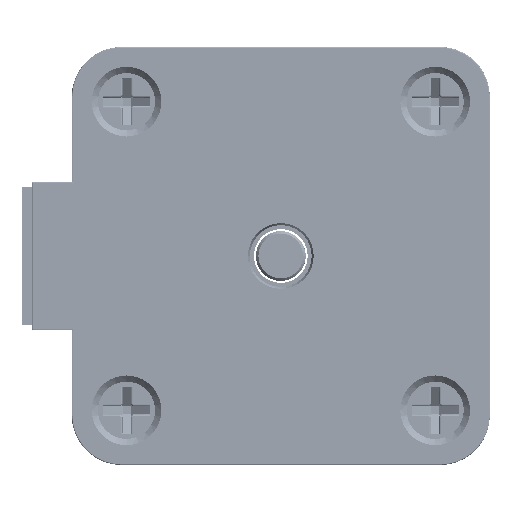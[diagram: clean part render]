
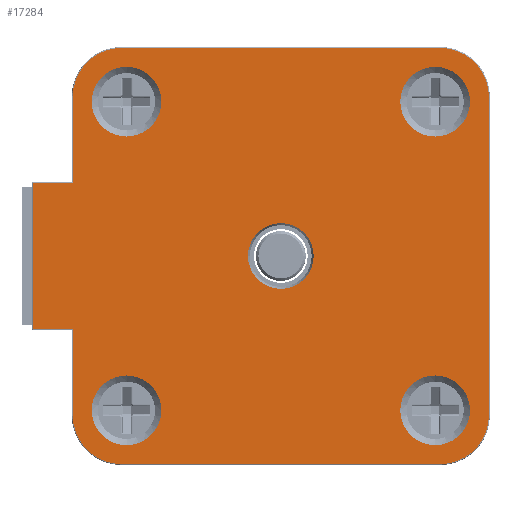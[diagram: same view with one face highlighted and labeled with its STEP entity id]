
A CAD part, front view. The second image highlights one B-rep face of the part: STEP entity #17284.
In plain terms, the highlighted planar face has unit normal (0, -1, 0).
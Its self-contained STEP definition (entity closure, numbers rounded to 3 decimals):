
#252=FACE_BOUND('',#2457,.T.);
#253=FACE_BOUND('',#2458,.T.);
#254=FACE_BOUND('',#2459,.T.);
#255=FACE_BOUND('',#2460,.T.);
#256=FACE_BOUND('',#2461,.T.);
#574=PLANE('',#18778);
#1437=FACE_OUTER_BOUND('',#2456,.T.);
#2456=EDGE_LOOP('',(#14649,#14650,#14651,#14652,#14653,#14654,#14655,#14656,
#14657,#14658,#14659,#14660));
#2457=EDGE_LOOP('',(#14661));
#2458=EDGE_LOOP('',(#14662));
#2459=EDGE_LOOP('',(#14663));
#2460=EDGE_LOOP('',(#14664));
#2461=EDGE_LOOP('',(#14665));
#3018=CIRCLE('',#18779,4.9);
#3019=CIRCLE('',#18780,4.9);
#3020=CIRCLE('',#18781,4.9);
#3021=CIRCLE('',#18782,4.9);
#3022=CIRCLE('',#18783,3.3);
#3023=CIRCLE('',#18784,3.5);
#3024=CIRCLE('',#18785,3.5);
#3025=CIRCLE('',#18786,3.5);
#3026=CIRCLE('',#18787,3.5);
#4837=LINE('',#52513,#6067);
#4843=LINE('',#52528,#6073);
#4844=LINE('',#52551,#6074);
#4845=LINE('',#52555,#6075);
#4846=LINE('',#52559,#6076);
#4847=LINE('',#52563,#6077);
#4848=LINE('',#52566,#6078);
#4849=LINE('',#52567,#6079);
#6067=VECTOR('',#22096,10.);
#6073=VECTOR('',#22108,10.);
#6074=VECTOR('',#22113,10.);
#6075=VECTOR('',#22116,10.);
#6076=VECTOR('',#22119,10.);
#6077=VECTOR('',#22122,10.);
#6078=VECTOR('',#22125,10.);
#6079=VECTOR('',#22126,10.);
#7771=VERTEX_POINT('',#52498);
#7772=VERTEX_POINT('',#52502);
#7777=VERTEX_POINT('',#52525);
#7778=VERTEX_POINT('',#52527);
#7779=VERTEX_POINT('',#52550);
#7780=VERTEX_POINT('',#52552);
#7781=VERTEX_POINT('',#52554);
#7782=VERTEX_POINT('',#52556);
#7783=VERTEX_POINT('',#52558);
#7784=VERTEX_POINT('',#52560);
#7785=VERTEX_POINT('',#52562);
#7786=VERTEX_POINT('',#52564);
#7787=VERTEX_POINT('',#52568);
#7788=VERTEX_POINT('',#52570);
#7789=VERTEX_POINT('',#52572);
#7790=VERTEX_POINT('',#52574);
#7791=VERTEX_POINT('',#52576);
#10107=EDGE_CURVE('',#7772,#7771,#4837,.T.);
#10114=EDGE_CURVE('',#7777,#7778,#4843,.T.);
#10117=EDGE_CURVE('',#7779,#7772,#4844,.T.);
#10118=EDGE_CURVE('',#7780,#7779,#3018,.T.);
#10119=EDGE_CURVE('',#7781,#7780,#4845,.T.);
#10120=EDGE_CURVE('',#7782,#7781,#3019,.T.);
#10121=EDGE_CURVE('',#7783,#7782,#4846,.T.);
#10122=EDGE_CURVE('',#7784,#7783,#3020,.T.);
#10123=EDGE_CURVE('',#7785,#7784,#4847,.T.);
#10124=EDGE_CURVE('',#7786,#7785,#3021,.T.);
#10125=EDGE_CURVE('',#7778,#7786,#4848,.T.);
#10126=EDGE_CURVE('',#7771,#7777,#4849,.T.);
#10127=EDGE_CURVE('',#7787,#7787,#3022,.T.);
#10128=EDGE_CURVE('',#7788,#7788,#3023,.T.);
#10129=EDGE_CURVE('',#7789,#7789,#3024,.T.);
#10130=EDGE_CURVE('',#7790,#7790,#3025,.T.);
#10131=EDGE_CURVE('',#7791,#7791,#3026,.T.);
#14649=ORIENTED_EDGE('',*,*,#10117,.F.);
#14650=ORIENTED_EDGE('',*,*,#10118,.F.);
#14651=ORIENTED_EDGE('',*,*,#10119,.F.);
#14652=ORIENTED_EDGE('',*,*,#10120,.F.);
#14653=ORIENTED_EDGE('',*,*,#10121,.F.);
#14654=ORIENTED_EDGE('',*,*,#10122,.F.);
#14655=ORIENTED_EDGE('',*,*,#10123,.F.);
#14656=ORIENTED_EDGE('',*,*,#10124,.F.);
#14657=ORIENTED_EDGE('',*,*,#10125,.F.);
#14658=ORIENTED_EDGE('',*,*,#10114,.F.);
#14659=ORIENTED_EDGE('',*,*,#10126,.F.);
#14660=ORIENTED_EDGE('',*,*,#10107,.F.);
#14661=ORIENTED_EDGE('',*,*,#10127,.T.);
#14662=ORIENTED_EDGE('',*,*,#10128,.F.);
#14663=ORIENTED_EDGE('',*,*,#10129,.F.);
#14664=ORIENTED_EDGE('',*,*,#10130,.F.);
#14665=ORIENTED_EDGE('',*,*,#10131,.F.);
#17284=ADVANCED_FACE('',(#1437,#252,#253,#254,#255,#256),#574,.F.);
#18778=AXIS2_PLACEMENT_3D('',#52549,#22111,#22112);
#18779=AXIS2_PLACEMENT_3D('',#52553,#22114,#22115);
#18780=AXIS2_PLACEMENT_3D('',#52557,#22117,#22118);
#18781=AXIS2_PLACEMENT_3D('',#52561,#22120,#22121);
#18782=AXIS2_PLACEMENT_3D('',#52565,#22123,#22124);
#18783=AXIS2_PLACEMENT_3D('',#52569,#22127,#22128);
#18784=AXIS2_PLACEMENT_3D('',#52571,#22129,#22130);
#18785=AXIS2_PLACEMENT_3D('',#52573,#22131,#22132);
#18786=AXIS2_PLACEMENT_3D('',#52575,#22133,#22134);
#18787=AXIS2_PLACEMENT_3D('',#52577,#22135,#22136);
#22096=DIRECTION('',(-1.,0.,0.));
#22108=DIRECTION('',(1.,0.,0.));
#22111=DIRECTION('center_axis',(0.,1.,0.));
#22112=DIRECTION('ref_axis',(0.,0.,
1.));
#22113=DIRECTION('',(0.,0.,1.));
#22114=DIRECTION('center_axis',(0.,1.,0.));
#22115=DIRECTION('ref_axis',(-0.707,0.,-0.707));
#22116=DIRECTION('',(-1.,0.,0.));
#22117=DIRECTION('center_axis',(0.,1.,0.));
#22118=DIRECTION('ref_axis',(0.707,0.,-0.707));
#22119=DIRECTION('',(0.,0.,-1.));
#22120=DIRECTION('center_axis',(0.,1.,0.));
#22121=DIRECTION('ref_axis',(0.707,0.,0.707));
#22122=DIRECTION('',(1.,0.,0.));
#22123=DIRECTION('center_axis',(0.,1.,0.));
#22124=DIRECTION('ref_axis',(-0.707,0.,0.707));
#22125=DIRECTION('',(0.,0.,1.));
#22126=DIRECTION('',(0.,0.,1.));
#22127=DIRECTION('center_axis',(0.,1.,0.));
#22128=DIRECTION('ref_axis',(0.,0.,
1.));
#22129=DIRECTION('center_axis',(0.,-1.,0.));
#22130=DIRECTION('ref_axis',(0.,0.,
1.));
#22131=DIRECTION('center_axis',(0.,-1.,0.));
#22132=DIRECTION('ref_axis',(0.,0.,
1.));
#22133=DIRECTION('center_axis',(0.,-1.,0.));
#22134=DIRECTION('ref_axis',(0.,0.,
1.));
#22135=DIRECTION('center_axis',(0.,-1.,0.));
#22136=DIRECTION('ref_axis',(0.,0.,
1.));
#52498=CARTESIAN_POINT('',(-22.408,-1.618,-9.83));
#52502=CARTESIAN_POINT('',(-18.408,-1.618,-9.83));
#52513=CARTESIAN_POINT('',(-8.008,-1.618,-9.83));
#52525=CARTESIAN_POINT('',(-22.408,-1.618,4.91));
#52527=CARTESIAN_POINT('',(-18.408,-1.618,4.91));
#52528=CARTESIAN_POINT('',(-8.008,-1.618,4.91));
#52549=CARTESIAN_POINT('Origin',(2.492,-1.618,-2.46));
#52550=CARTESIAN_POINT('',(-18.408,-1.618,-18.46));
#52551=CARTESIAN_POINT('',(-18.408,-1.618,-10.46));
#52552=CARTESIAN_POINT('',(-13.508,-1.618,-23.36));
#52553=CARTESIAN_POINT('Origin',(-13.508,-1.618,-18.46));
#52554=CARTESIAN_POINT('',(18.492,-1.618,-23.36));
#52555=CARTESIAN_POINT('',(10.492,-1.618,-23.36));
#52556=CARTESIAN_POINT('',(23.392,-1.618,-18.46));
#52557=CARTESIAN_POINT('Origin',(18.492,-1.618,-18.46));
#52558=CARTESIAN_POINT('',(23.392,-1.618,13.54));
#52559=CARTESIAN_POINT('',(23.392,-1.618,5.54));
#52560=CARTESIAN_POINT('',(18.492,-1.618,18.44));
#52561=CARTESIAN_POINT('Origin',(18.492,-1.618,13.54));
#52562=CARTESIAN_POINT('',(-13.508,-1.618,18.44));
#52563=CARTESIAN_POINT('',(-5.508,-1.618,18.44));
#52564=CARTESIAN_POINT('',(-18.408,-1.618,13.54));
#52565=CARTESIAN_POINT('Origin',(-13.508,-1.618,13.54));
#52566=CARTESIAN_POINT('',(-18.408,-1.618,-10.46));
#52567=CARTESIAN_POINT('',(-22.408,-1.618,-2.46));
#52568=CARTESIAN_POINT('',(2.492,-1.618,-5.76));
#52569=CARTESIAN_POINT('Origin',(2.492,-1.618,-2.46));
#52570=CARTESIAN_POINT('',(17.992,-1.618,-21.46));
#52571=CARTESIAN_POINT('Origin',(17.992,-1.618,-17.96));
#52572=CARTESIAN_POINT('',(-13.008,-1.618,9.54));
#52573=CARTESIAN_POINT('Origin',(-13.008,-1.618,13.04));
#52574=CARTESIAN_POINT('',(17.992,-1.618,9.54));
#52575=CARTESIAN_POINT('Origin',(17.992,-1.618,13.04));
#52576=CARTESIAN_POINT('',(-13.008,-1.618,-21.46));
#52577=CARTESIAN_POINT('Origin',(-13.008,-1.618,-17.96));
